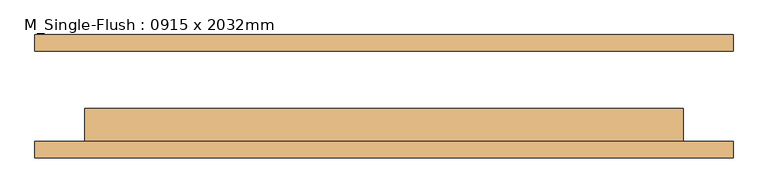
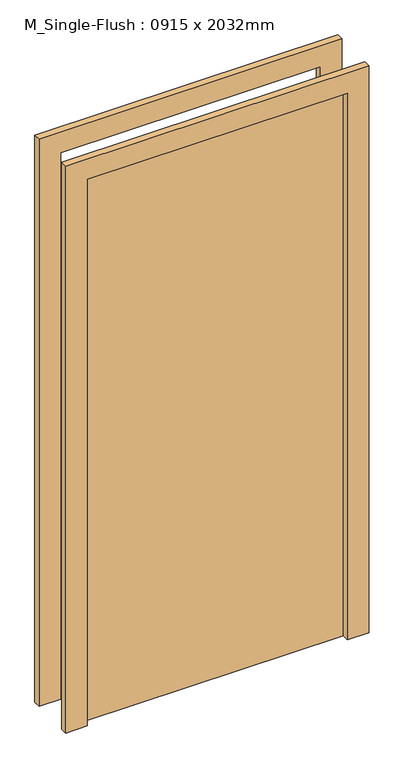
"""IFC4 building model written with IfcOpenShell, lengths in millimetres: door geometry, M_Single-Flush : 0915 x 2032mm."""

from ifc_helpers import new_model, si_unit, frame, origin, origin_with_axes, place, context, project, spatial, polyline, outline, extrude, source, transform, mapped, element, save


def m_single_flush_0915_x_2032mm_1012e85d(model_context):
    return source(origin(), model_context, "Body", "SweptSolid", [
        extrude(outline(polyline([(2108.0, -533.5), (0.0, -533.5), (0.0, -457.5), (2032.0, -457.5), (2032.0, 457.5), (0.0, 457.5), (0.0, 533.5), (2108.0, 533.5), (2108.0, -533.5)])), frame((0.0, -94.25, 0.0), z_axis=(0.0, 1.0, 0.0), x_axis=(0.0, 0.0, 1.0)), (0.0, 0.0, 1.0), 25.0),
        extrude(outline(polyline([(2108.0, 533.5), (2108.0, -533.5), (0.0, -533.5), (0.0, -457.5), (2032.0, -457.5), (2032.0, 457.5), (0.0, 457.5), (0.0, 533.5), (2108.0, 533.5)])), frame((0.0, 69.25, 0.0), z_axis=(0.0, 1.0, 0.0), x_axis=(0.0, 0.0, 1.0)), (0.0, 0.0, 1.0), 25.0),
        extrude(outline(polyline([(457.5, -18.25), (457.5, -69.25), (-457.5, -69.25), (-457.5, -18.25), (457.5, -18.25)])), origin_with_axes(), (0.0, 0.0, 1.0), 2032.0),
    ])


if __name__ == "__main__":
    model = new_model("IFC4")
    model_context = context("Model", 3, world=origin())
    ifc_project = project(units=[si_unit("LENGTHUNIT", "METRE", prefix="MILLI")], contexts=[model_context])
    site = spatial("IfcSite", under=ifc_project)
    building = spatial("IfcBuilding", under=site)
    placement = place(None, origin())
    m_single_flush_0915_x_2032mm_shape = m_single_flush_0915_x_2032mm_1012e85d(model_context)
    element("IfcDoor", 1, ObjectType="M_Single-Flush : 0915 x 2032mm", at=placement, inside=building, context=model_context, shape_type="MappedRepresentation", body=[
        mapped(m_single_flush_0915_x_2032mm_shape, transform((0.0, 0.0, 0.0), x_axis=(1.0, 0.0, 0.0), y_axis=(0.0, 1.0, 0.0), z_axis=(0.0, 0.0, 1.0))),
    ])
    save(model, "model.ifc")
